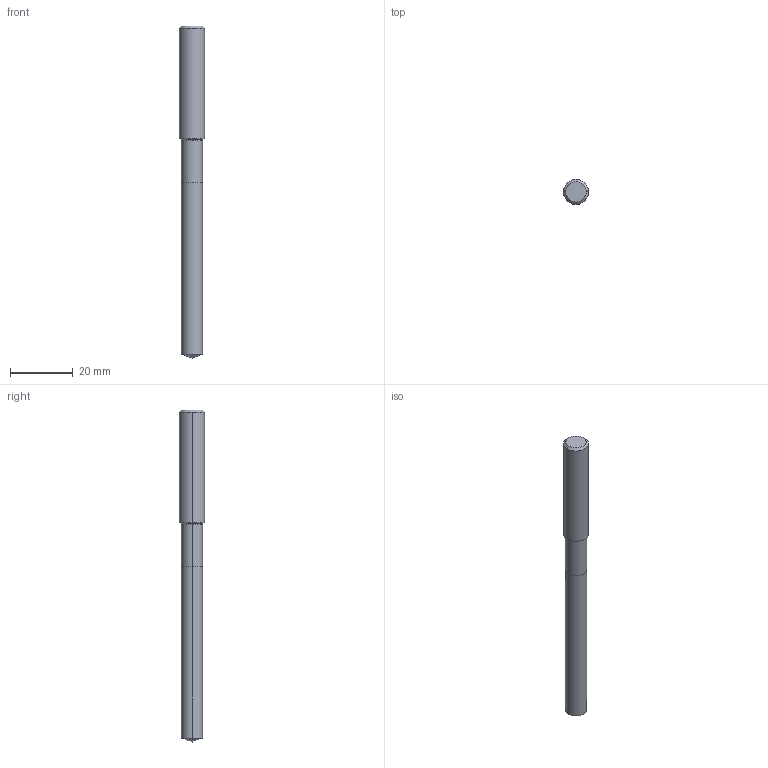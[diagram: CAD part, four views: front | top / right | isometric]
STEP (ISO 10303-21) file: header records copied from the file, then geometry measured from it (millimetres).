
FILE_DESCRIPTION(('STEP AP214'),'1');
FILE_NAME('cctmp_3D705D26-5830-4635-93A8-F895A8CDE0E4_2020_11_02_13_40_42_0704..stp','2020-11-02T12:40:42',('Meusburger Georg GmbH & Co KG'),('CADClick - www.CADClick.com'),'Spatial InterOp 3D',' ','unknown authorization');
FILE_SCHEMA(('AUTOMOTIVE_DESIGN { 1 0 10303 214 1 1 1 1 }'));
Length unit declared in the file: millimetre
Products named in the file (1): WZB10223_6.8
Bounding box: 8 x 8 x 106 mm (x, y, z)
Volume: 4315.1 mm3; surface area: 2458.4 mm2
Topology: 1 solids, 1 shells, 14 faces, 28 edges, 15 vertices
Faces by surface type: cylinder 6, cone 6, plane 2
Entity records: 484 total; most frequent: DIRECTION 70, CARTESIAN_POINT 56, ORIENTED_EDGE 52, AXIS2_PLACEMENT_3D 29, EDGE_CURVE 26, STYLED_ITEM 15, PRESENTATION_STYLE_ASSIGNMENT 15, SURFACE_STYLE_USAGE 15
